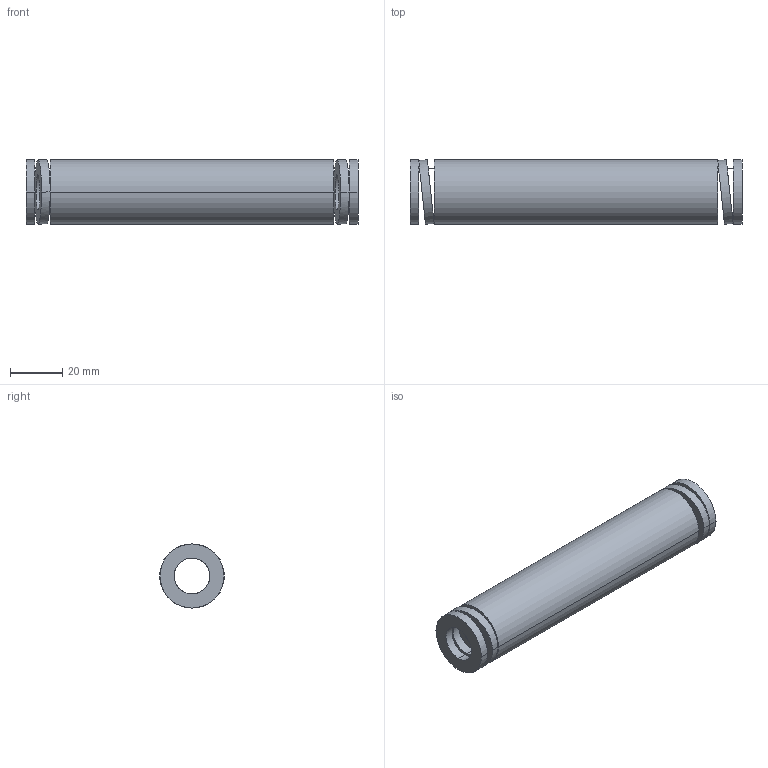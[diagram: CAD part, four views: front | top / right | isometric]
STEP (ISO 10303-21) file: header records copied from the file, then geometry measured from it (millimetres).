
FILE_DESCRIPTION(('CATIA V5 STEP Exchange'),'2;1');
FILE_NAME('C:\Users\Utente\Desktop\IO LAVORO\3D X SITO CF\X SITO\3D files 392B\392-B25-127.stp','2021-08-13T07:44:42+00:00',('none'),('none'),'CATIA Version 5 Release 20 GA (IN-10)','CATIA V5 STEP AP203','none');
FILE_SCHEMA(('CONFIG_CONTROL_DESIGN'));
Length unit declared in the file: millimetre
Products named in the file (1): 392-B25-127
Bounding box: 127 x 24.71 x 24.5 mm (x, y, z)
Volume: 39382.9 mm3; surface area: 17829.9 mm2
Topology: 1 solids, 1 shells, 38 faces, 92 edges, 64 vertices
Faces by surface type: cylinder 28, plane 10
Entity records: 1602 total; most frequent: CARTESIAN_POINT 719, ORIENTED_EDGE 184, DIRECTION 126, EDGE_CURVE 92, VERTEX_POINT 64, AXIS2_PLACEMENT_3D 61, EDGE_LOOP 56, B_SPLINE_CURVE_WITH_KNOTS 42
